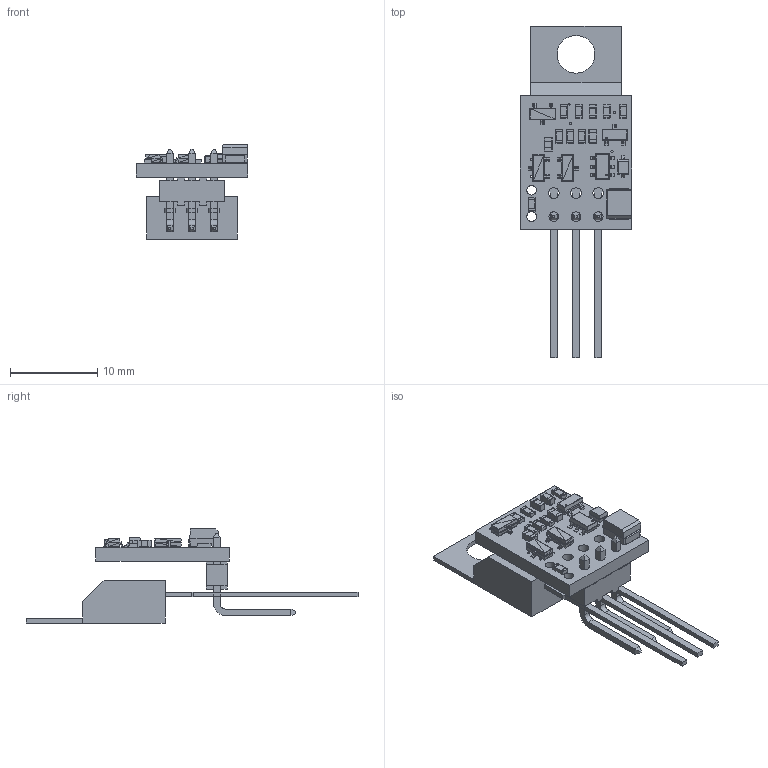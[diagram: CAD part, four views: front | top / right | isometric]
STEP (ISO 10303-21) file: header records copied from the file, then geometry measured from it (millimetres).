
FILE_DESCRIPTION(('for SolidWorks'),'2;1');
FILE_NAME('C:\www\opencart-4.1.0.3\ImagesForSite\3D_models\SPX79_2025-10-27.step','2026-09-23T21:16:29',('B'),(''), 'Open CASCADE STEP processor 6.6','DipTrace','Unknown');
FILE_SCHEMA(('AUTOMOTIVE_DESIGN { 1 0 10303 214 1 1 1 1 }'));
Length unit declared in the file: millimetre
Products named in the file (14): PCB_SPX79_2025-10-27; Board_SPX79_2025-10-27; TCJB106M035R0200; 06031C104KAT2A; C1608C0G1H470J; 10uF_6.3V_20%Tantalum_0603; MM3Z5V6ST1G; Molex_3pin_hdr_22122031; LT1806CS6#TRMPBF; FDV301N; MJF45H11G; ERA-3APB202V; ERA-3APB103V; sot23
Assembly tree (21 placements, depth 2):
  PCB_SPX79_2025-10-27
    Board_SPX79_2025-10-27
    TCJB106M035R0200
    06031C104KAT2A
    C1608C0G1H470J  x2
    10uF_6.3V_20%Tantalum_0603
    MM3Z5V6ST1G
    Molex_3pin_hdr_22122031
    LT1806CS6#TRMPBF
    FDV301N
    MJF45H11G
    ERA-3APB202V  x5
    ERA-3APB103V  x2
    sot23  x3
Bounding box: 12.7 x 37.96 x 10.77 mm (x, y, z)
Volume: 366.5 mm3; surface area: 1700.5 mm2
Topology: 6 solids, 105 shells, 1551 faces, 3143 edges, 1778 vertices
Faces by surface type: plane 1367, cylinder 152, sphere 32
Full cylindrical faces by diameter (mm): 0.163 x1, 0.203 x1, 0.254 x2, 1.1 x5, 1.219 x3, 4.313 x1
Entity records: 28296 total; most frequent: DIRECTION 3925, CARTESIAN_POINT 3912, ORIENTED_EDGE 3774, EDGE_CURVE 1887, LINE 1639, VECTOR 1639, AXIS2_PLACEMENT_3D 1143, VERTEX_POINT 1130
